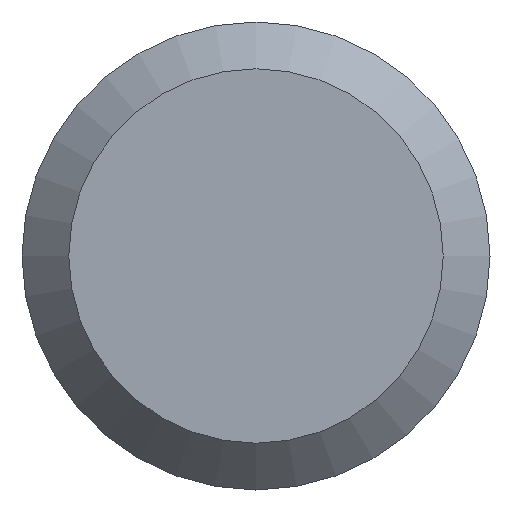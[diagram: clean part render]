
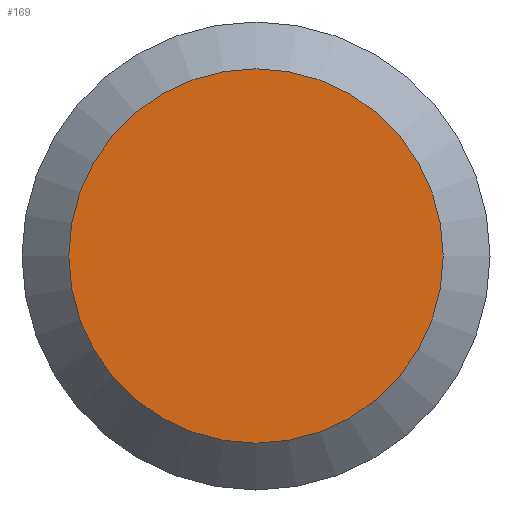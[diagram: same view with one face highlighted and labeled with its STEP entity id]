
A CAD part, left-side view. The second image highlights one B-rep face of the part: STEP entity #169.
In plain terms, the highlighted planar face has unit normal (-1, 0, 0).
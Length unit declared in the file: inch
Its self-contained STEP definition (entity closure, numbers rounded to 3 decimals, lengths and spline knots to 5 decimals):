
#19 = VERTEX_POINT ( 'NONE', #105 ) ;
#21 = FACE_OUTER_BOUND ( 'NONE', #184, .T. ) ;
#55 = ORIENTED_EDGE ( 'NONE', *, *, #110, .T. ) ;
#67 = AXIS2_PLACEMENT_3D ( 'NONE', #199, #191, #165 ) ;
#105 = CARTESIAN_POINT ( 'NONE',  ( 0., 0., -0.0384 ) ) ;
#110 = EDGE_CURVE ( 'NONE', #19, #19, #159, .T. ) ;
#125 = DIRECTION ( 'NONE',  ( 1., 0., 0. ) ) ;
#159 = CIRCLE ( 'NONE', #67, 0.0384 ) ;
#165 = DIRECTION ( 'NONE',  ( 0., 0., -1. ) ) ;
#169 = ADVANCED_FACE ( 'NONE', ( #21 ), #240, .F. ) ;
#181 = CARTESIAN_POINT ( 'NONE',  ( 0., 0.048, 0. ) ) ;
#183 = DIRECTION ( 'NONE',  ( 0., 0., -1. ) ) ;
#184 = EDGE_LOOP ( 'NONE', ( #55 ) ) ;
#191 = DIRECTION ( 'NONE',  ( -1., 0., 0. ) ) ;
#199 = CARTESIAN_POINT ( 'NONE',  ( 0., 0., 0. ) ) ;
#239 = AXIS2_PLACEMENT_3D ( 'NONE', #181, #125, #183 ) ;
#240 = PLANE ( 'NONE',  #239 ) ;
